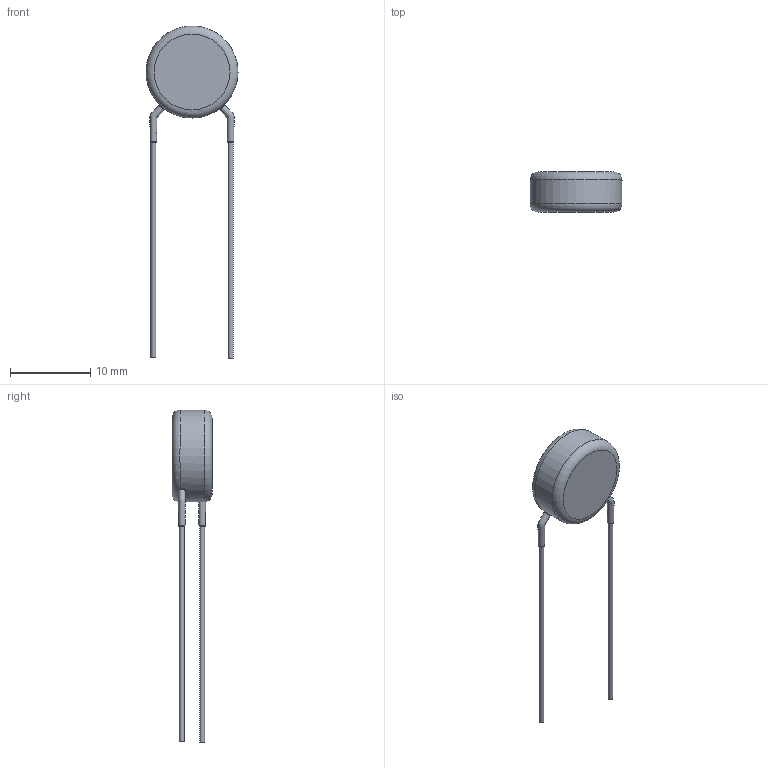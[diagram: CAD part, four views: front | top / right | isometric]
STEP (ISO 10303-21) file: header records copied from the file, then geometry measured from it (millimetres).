
FILE_DESCRIPTION(/* description */ (''),/* implementation_level */ '2;1');
FILE_NAME(/* name */ 'I:\Marketing\M6t1\3D-Models\Zchng-Werk-3\Upload for homepage\BCC neu\AY2 Straight\Step\AY2392#43Y5US63L0.stp',/* time_stamp */ '2023-07-13T14:14:00+02:00',/* author */ ('truediger'),/* organization */ (''),/* preprocessor_version */ 'ST-DEVELOPER v18',/* originating_system */ 'Autodesk Inventor 2020',/* authorisation */ '');
FILE_SCHEMA (('AUTOMOTIVE_DESIGN { 1 0 10303 214 3 1 1 }'));
Length unit declared in the file: millimetre
Products named in the file (1): Bauteil2
Bounding box: 11.5 x 5 x 41.5 mm (x, y, z)
Volume: 525.3 mm3; surface area: 483.8 mm2
Topology: 1 solids, 1 shells, 19 faces, 43 edges, 28 vertices
Faces by surface type: bspline 8, plane 6, cylinder 3, torus 2
Full cylindrical faces by diameter (mm): 0.6 x2, 11.5 x1
Entity records: 1925 total; most frequent: CARTESIAN_POINT 1464, ORIENTED_EDGE 86, DIRECTION 75, EDGE_CURVE 43, AXIS2_PLACEMENT_3D 36, VERTEX_POINT 28, CIRCLE 24, EDGE_LOOP 21
